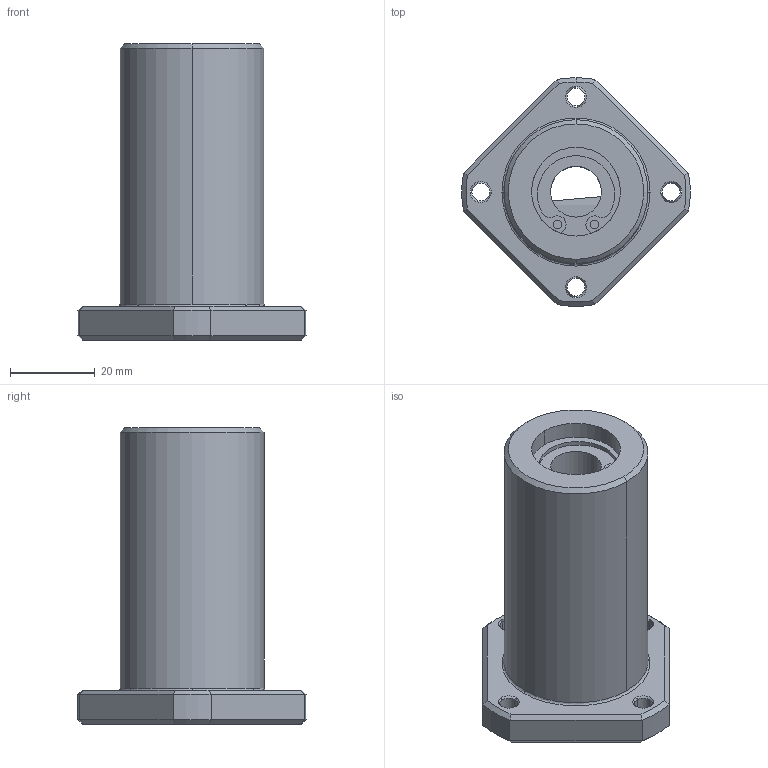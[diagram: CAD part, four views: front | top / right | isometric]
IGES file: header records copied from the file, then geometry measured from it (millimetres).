
Start section: 3D InterOp IGES (Version 21 0 1), Spatial Corp. Copyright (c) 1999-2007.
Global section: file name: LCF-12AVUU.igs; native system: Spatial Corp.; preprocessor: 3D InterOp GENERIC/IGES 3.0; author: Noname; organization: Noname; date: 20220517.163127; units: millimetre
Bounding box: 53.92 x 53.96 x 70 mm (x, y, z)
Surface area: 14384.1 mm2 (no closed solid volume)
Topology: 0 solids, 0 shells, 109 faces, 532 edges, 532 vertices
Faces by surface type: revolution 81, extrusion 28
